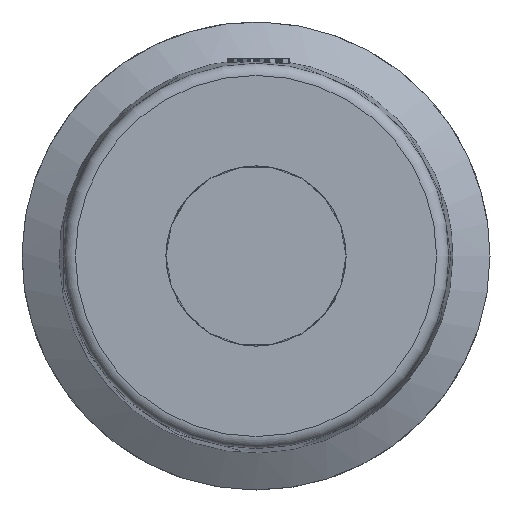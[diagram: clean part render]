
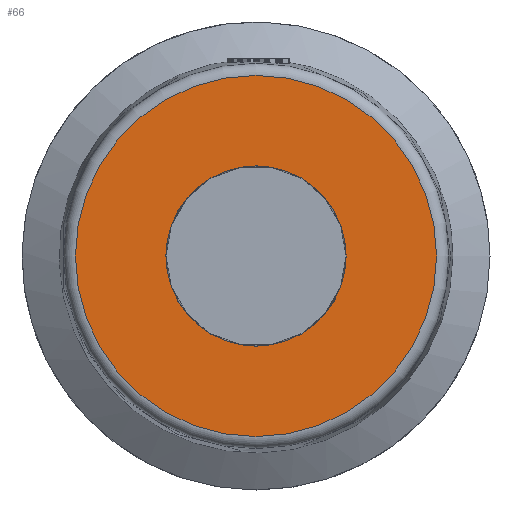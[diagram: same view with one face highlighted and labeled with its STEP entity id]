
A CAD part, front view. The second image highlights one B-rep face of the part: STEP entity #66.
In plain terms, the highlighted planar face has unit normal (0, -1, 0).
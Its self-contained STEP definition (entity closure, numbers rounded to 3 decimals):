
#66=ADVANCED_FACE('',(#8380,#8382),#8384,.T.);
#8380=FACE_BOUND('',#8381,.T.);
#8381=EDGE_LOOP('',(#16778));
#8382=FACE_BOUND('',#8383,.T.);
#8383=EDGE_LOOP('',(#16779));
#8384=PLANE('',#8385);
#8385=AXIS2_PLACEMENT_3D('',#8386,#8387,#8388);
#8386=CARTESIAN_POINT('',(2634.813,1555.132,-16.));
#8387=DIRECTION('',(0.,-1.,0.));
#8388=DIRECTION('',(0.,0.,-1.));
#16778=ORIENTED_EDGE('',*,*,#21682,.F.);
#16779=ORIENTED_EDGE('',*,*,#22184,.T.);
#21682=EDGE_CURVE('',#24389,#24389,#24390,.T.);
#22184=EDGE_CURVE('',#25393,#25393,#25394,.T.);
#24389=VERTEX_POINT('',#28908);
#24390=CIRCLE('',#28909,15.049);
#25393=VERTEX_POINT('',#32021);
#25394=CIRCLE('',#32022,7.5);
#28908=CARTESIAN_POINT('',(2665.861,1555.132,-16.));
#28909=AXIS2_PLACEMENT_3D('',#28910,#28911,#28912);
#28910=CARTESIAN_POINT('',(2650.813,1555.132,-16.));
#28911=DIRECTION('',(0.,1.,0.));
#28912=DIRECTION('',(-1.,0.,0.));
#32021=CARTESIAN_POINT('',(2658.313,1555.132,-16.));
#32022=AXIS2_PLACEMENT_3D('',#32023,#32024,#32025);
#32023=CARTESIAN_POINT('',(2650.813,1555.132,-16.));
#32024=DIRECTION('',(0.,1.,0.));
#32025=DIRECTION('',(-1.,0.,0.));
